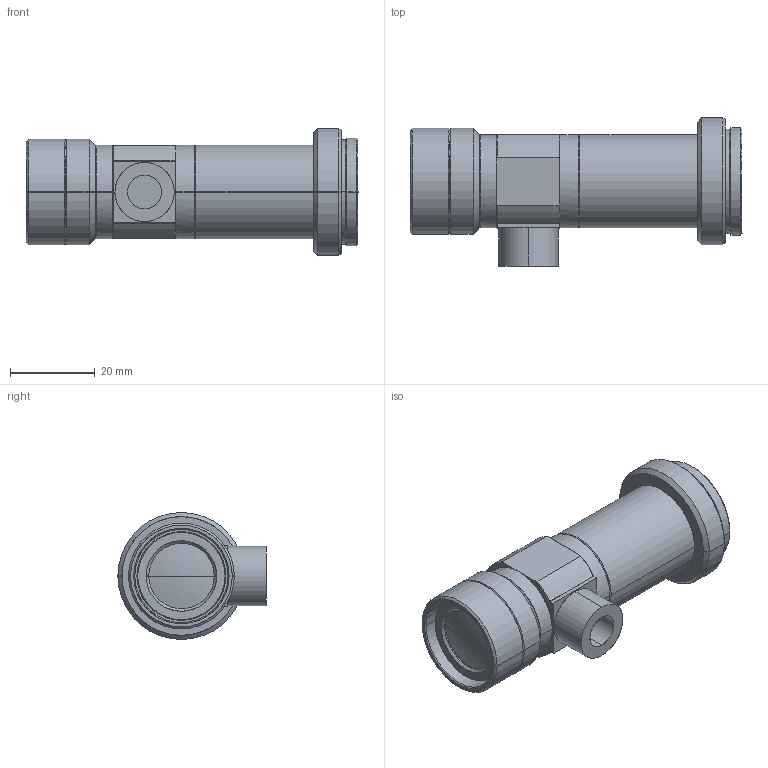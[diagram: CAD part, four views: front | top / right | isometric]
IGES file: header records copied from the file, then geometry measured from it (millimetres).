
Start section: SolidWorks IGES file using analytic representation for surfaces
Bounding box: 78.4 x 35 x 30 mm (x, y, z)
Surface area: 11533.4 mm2 (no closed solid volume)
Topology: 0 solids, 0 shells, 143 faces, 1622 edges, 1615 vertices
Faces by surface type: revolution 106, bspline 37
